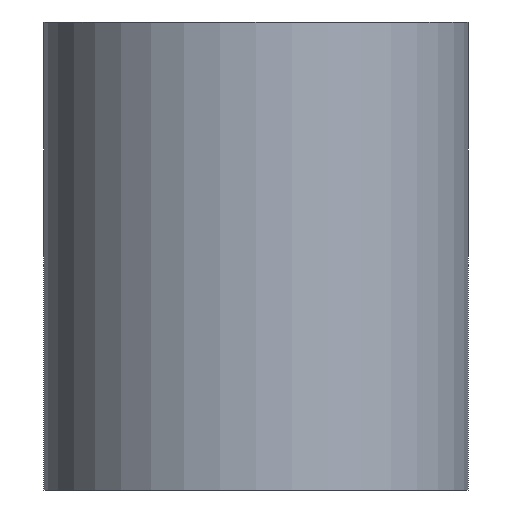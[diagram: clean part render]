
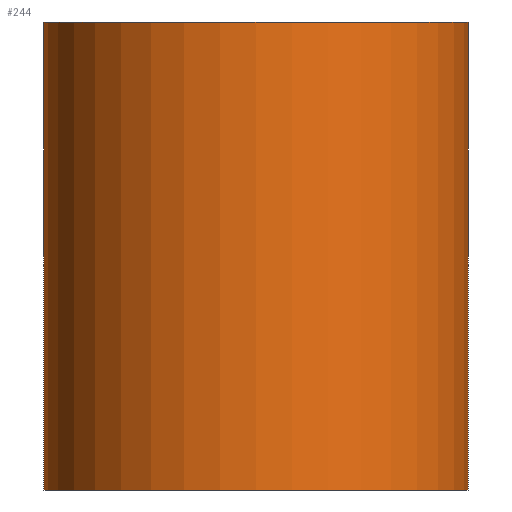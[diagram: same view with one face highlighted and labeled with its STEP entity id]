
A CAD part, left-side view. The second image highlights one B-rep face of the part: STEP entity #244.
In plain terms, the highlighted cylindrical face has radius 68 mm (diameter 136 mm), a partial arc.
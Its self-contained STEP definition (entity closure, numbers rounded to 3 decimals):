
#7 = VECTOR ( 'NONE', #120, 1000. ) ;
#31 = EDGE_CURVE ( 'NONE', #296, #350, #53, .T. ) ;
#32 = CARTESIAN_POINT ( 'NONE',  ( 0., 0., -150. ) ) ;
#52 = CARTESIAN_POINT ( 'NONE',  ( 50.535, 45.5, -150. ) ) ;
#53 = CIRCLE ( 'NONE', #241, 68. ) ;
#81 = CARTESIAN_POINT ( 'NONE',  ( 50.535, -45.5, 0. ) ) ;
#82 = DIRECTION ( 'NONE',  ( 1., 0., 0. ) ) ;
#120 = DIRECTION ( 'NONE',  ( 0., 0., 1. ) ) ;
#125 = VECTOR ( 'NONE', #289, 1000. ) ;
#154 = DIRECTION ( 'NONE',  ( 0., 0., 1. ) ) ;
#157 = AXIS2_PLACEMENT_3D ( 'NONE', #32, #339, #440 ) ;
#196 = EDGE_CURVE ( 'NONE', #299, #350, #209, .T. ) ;
#209 = LINE ( 'NONE', #329, #125 ) ;
#214 = AXIS2_PLACEMENT_3D ( 'NONE', #357, #154, #82 ) ;
#216 = CARTESIAN_POINT ( 'NONE',  ( 50.535, -45.5, -150. ) ) ;
#224 = ORIENTED_EDGE ( 'NONE', *, *, #31, .F. ) ;
#241 = AXIS2_PLACEMENT_3D ( 'NONE', #297, #435, #406 ) ;
#244 = ADVANCED_FACE ( 'NONE', ( #395 ), #388, .T. ) ;
#248 = CARTESIAN_POINT ( 'NONE',  ( 50.535, 45.5, 0. ) ) ;
#252 = EDGE_CURVE ( 'NONE', #315, #296, #363, .T. ) ;
#260 = EDGE_LOOP ( 'NONE', ( #224, #341, #434, #370 ) ) ;
#276 = CIRCLE ( 'NONE', #157, 68. ) ;
#289 = DIRECTION ( 'NONE',  ( 0., 0., 1. ) ) ;
#296 = VERTEX_POINT ( 'NONE', #248 ) ;
#297 = CARTESIAN_POINT ( 'NONE',  ( 0., 0., 0. ) ) ;
#299 = VERTEX_POINT ( 'NONE', #216 ) ;
#315 = VERTEX_POINT ( 'NONE', #424 ) ;
#329 = CARTESIAN_POINT ( 'NONE',  ( 50.535, -45.5, -150. ) ) ;
#339 = DIRECTION ( 'NONE',  ( 0., 0., 1. ) ) ;
#341 = ORIENTED_EDGE ( 'NONE', *, *, #252, .F. ) ;
#350 = VERTEX_POINT ( 'NONE', #81 ) ;
#357 = CARTESIAN_POINT ( 'NONE',  ( 0., 0., -150. ) ) ;
#363 = LINE ( 'NONE', #52, #7 ) ;
#370 = ORIENTED_EDGE ( 'NONE', *, *, #196, .T. ) ;
#388 = CYLINDRICAL_SURFACE ( 'NONE', #214, 68. ) ;
#395 = FACE_OUTER_BOUND ( 'NONE', #260, .T. ) ;
#406 = DIRECTION ( 'NONE',  ( 1., 0., 0. ) ) ;
#415 = EDGE_CURVE ( 'NONE', #315, #299, #276, .T. ) ;
#424 = CARTESIAN_POINT ( 'NONE',  ( 50.535, 45.5, -150. ) ) ;
#434 = ORIENTED_EDGE ( 'NONE', *, *, #415, .T. ) ;
#435 = DIRECTION ( 'NONE',  ( 0., 0., 1. ) ) ;
#440 = DIRECTION ( 'NONE',  ( 1., 0., 0. ) ) ;
